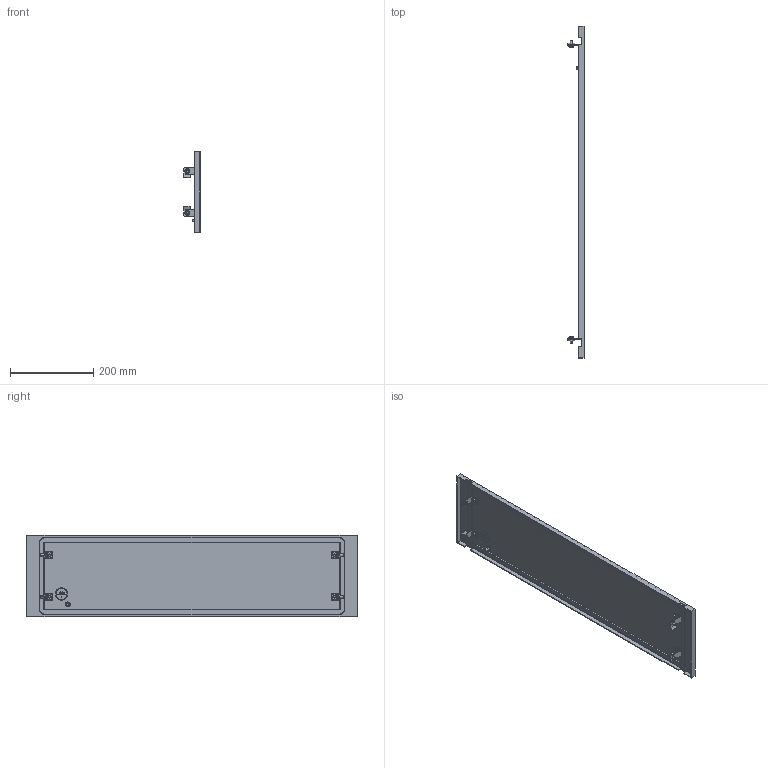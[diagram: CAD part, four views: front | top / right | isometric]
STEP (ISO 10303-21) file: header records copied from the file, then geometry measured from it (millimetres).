
FILE_DESCRIPTION (( 'STEP AP214' ), '1' );
FILE_NAME ('FO-00-PWSB-020-080 Ôàëüø-ïàíåëü âíåøíÿÿ ãëóõàÿ 200õ800 ìì.STEP', '2025-08-25T08:47:10', ( '' ), ( '' ), 'SwSTEP 2.0', 'SolidWorks 2023', '' );
FILE_SCHEMA (( 'AUTOMOTIVE_DESIGN' ));
Length unit declared in the file: millimetre
Products named in the file (1): FO-00-PWSB-020-080 Фальш-панель внешняя глухая 200х800 мм
Bounding box: 38.5 x 795 x 196 mm (x, y, z)
Volume: 426636.6 mm3; surface area: 379111.6 mm2
Topology: 1 solids, 10 shells, 846 faces, 2093 edges, 1287 vertices
Faces by surface type: plane 530, cylinder 202, cone 90, torus 24
Entity records: 25296 total; most frequent: CARTESIAN_POINT 4873, DIRECTION 4361, ORIENTED_EDGE 4182, EDGE_CURVE 2091, AXIS2_PLACEMENT_3D 1487, VECTOR 1387, LINE 1387, VERTEX_POINT 1287
